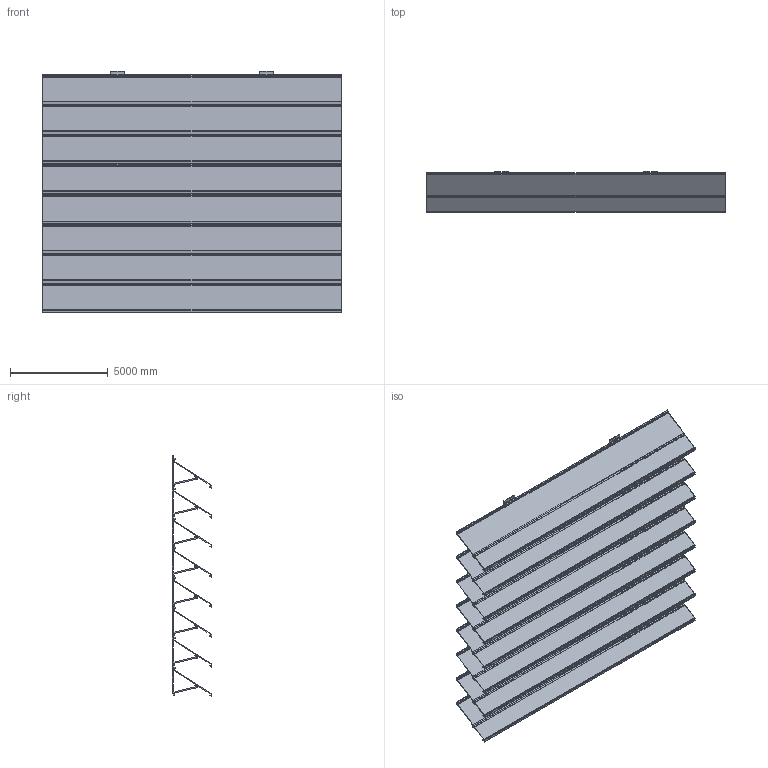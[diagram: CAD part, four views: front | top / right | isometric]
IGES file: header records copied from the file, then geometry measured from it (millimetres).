
Global section: file name: 3D_L_060HF; native system: AutoCAD 2023 - English; preprocessor: Autodesk Translation Framework DWG producer (atf_dwg_producer); organization: unknown; date: 20260203.132639; units: inch
Bounding box: 15240 x 2032 x 12368.34 mm (x, y, z)
Volume: 14823476871.7 mm3; surface area: 795026916.5 mm2
Topology: 10 solids, 10 shells, 1054 faces, 3102 edges, 2068 vertices
Faces by surface type: bspline 1054
